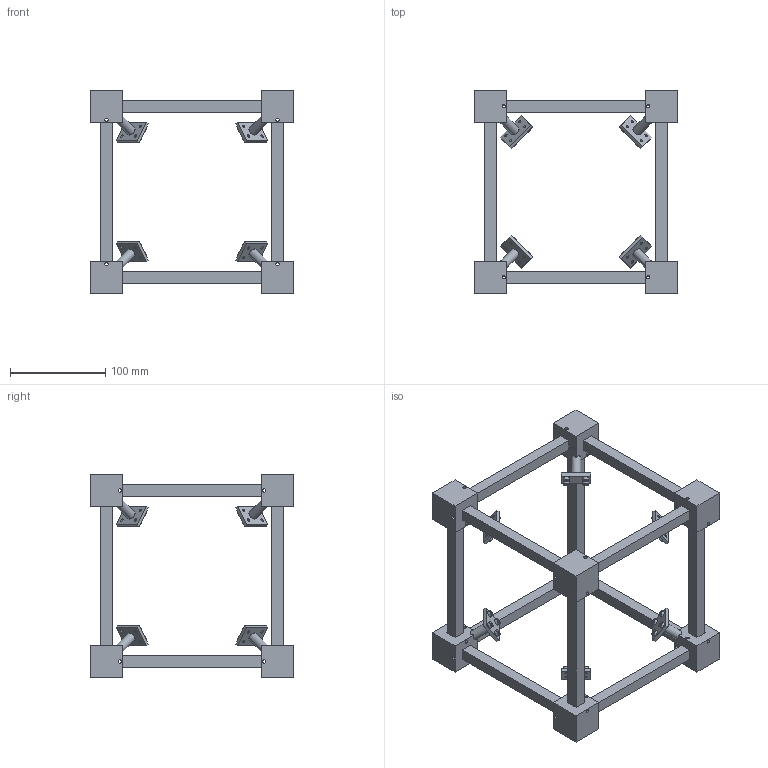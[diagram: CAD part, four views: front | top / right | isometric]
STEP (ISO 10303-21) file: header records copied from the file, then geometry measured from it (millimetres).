
FILE_DESCRIPTION(('Open CASCADE Model'),'2;1');
FILE_NAME('Open CASCADE Shape Model','2026-10-16T03:40:06',('Author'),( 'Open CASCADE'),'Open CASCADE STEP processor 7.9','Open CASCADE 7.9' ,'Unknown');
FILE_SCHEMA(('AUTOMOTIVE_DESIGN { 1 0 10303 214 1 1 1 1 }'));
Length unit declared in the file: millimetre
Products named in the file (21): Open CASCADE STEP translator 7.9 12; Open CASCADE STEP translator 7.9 12.1; Open CASCADE STEP translator 7.9 12.2; Open CASCADE STEP translator 7.9 12.3; Open CASCADE STEP translator 7.9 12.4; Open CASCADE STEP translator 7.9 12.5; Open CASCADE STEP translator 7.9 12.6; Open CASCADE STEP translator 7.9 12.7; Open CASCADE STEP translator 7.9 12.8; Open CASCADE STEP translator 7.9 12.9; Open CASCADE STEP translator 7.9 12.10; Open CASCADE STEP translator 7.9 12.11; Open CASCADE STEP translator 7.9 12.12; Open CASCADE STEP translator 7.9 12.13; Open CASCADE STEP translator 7.9 12.14; Open CASCADE STEP translator 7.9 12.15; Open CASCADE STEP translator 7.9 12.16; Open CASCADE STEP translator 7.9 12.17; Open CASCADE STEP translator 7.9 12.18; Open CASCADE STEP translator 7.9 12.19; Open CASCADE STEP translator 7.9 12.20
Assembly tree (20 placements, depth 2):
  Open CASCADE STEP translator 7.9 12
    Open CASCADE STEP translator 7.9 12.1
    Open CASCADE STEP translator 7.9 12.2
    Open CASCADE STEP translator 7.9 12.3
    Open CASCADE STEP translator 7.9 12.4
    Open CASCADE STEP translator 7.9 12.5
    Open CASCADE STEP translator 7.9 12.6
    Open CASCADE STEP translator 7.9 12.7
    Open CASCADE STEP translator 7.9 12.8
    Open CASCADE STEP translator 7.9 12.9
    Open CASCADE STEP translator 7.9 12.10
    Open CASCADE STEP translator 7.9 12.11
    Open CASCADE STEP translator 7.9 12.12
    Open CASCADE STEP translator 7.9 12.13
    Open CASCADE STEP translator 7.9 12.14
    Open CASCADE STEP translator 7.9 12.15
    Open CASCADE STEP translator 7.9 12.16
    Open CASCADE STEP translator 7.9 12.17
    Open CASCADE STEP translator 7.9 12.18
    Open CASCADE STEP translator 7.9 12.19
    Open CASCADE STEP translator 7.9 12.20
Bounding box: 214 x 214 x 214 mm (x, y, z)
Volume: 585710.7 mm3; surface area: 195285.3 mm2
Topology: 20 solids, 20 shells, 488 faces, 1152 edges, 768 vertices
Faces by surface type: plane 344, cylinder 144
Full cylindrical faces by diameter (mm): 2.9 x32, 3.4 x72, 6.3 x32, 10 x8
Entity records: 30016 total; most frequent: CARTESIAN_POINT 5157, DIRECTION 4730, LINE 2632, VECTOR 2632, ORIENTED_EDGE 2304, PCURVE 2304, DEFINITIONAL_REPRESENTATION 2304, EDGE_CURVE 1152
